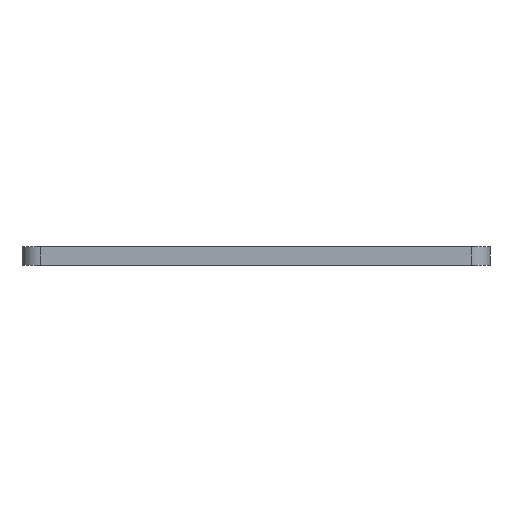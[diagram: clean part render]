
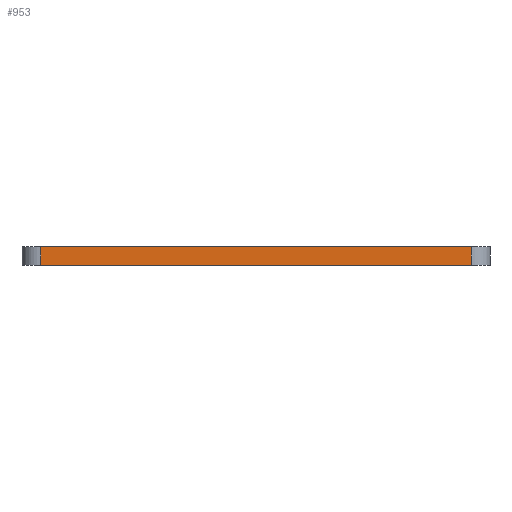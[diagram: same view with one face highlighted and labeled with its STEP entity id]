
A CAD part, front view. The second image highlights one B-rep face of the part: STEP entity #953.
In plain terms, the highlighted planar face has unit normal (0, -1, 0).
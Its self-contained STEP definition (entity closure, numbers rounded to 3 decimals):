
#44 = PLANE('',#45);
#45 = AXIS2_PLACEMENT_3D('',#46,#47,#48);
#46 = CARTESIAN_POINT('',(-25.,-32.5,2.));
#47 = DIRECTION('',(0.,0.,1.));
#48 = DIRECTION('',(1.,0.,0.));
#72 = CYLINDRICAL_SURFACE('',#73,2.);
#73 = AXIS2_PLACEMENT_3D('',#74,#75,#76);
#74 = CARTESIAN_POINT('',(-23.,-30.5,0.));
#75 = DIRECTION('',(0.,0.,1.));
#76 = DIRECTION('',(-1.,-0.,0.));
#100 = PLANE('',#101);
#101 = AXIS2_PLACEMENT_3D('',#102,#103,#104);
#102 = CARTESIAN_POINT('',(-25.,-32.5,0.));
#103 = DIRECTION('',(0.,0.,1.));
#104 = DIRECTION('',(1.,0.,0.));
#143 = VERTEX_POINT('',#144);
#144 = CARTESIAN_POINT('',(-23.,-32.5,2.));
#166 = EDGE_CURVE('',#143,#167,#169,.T.);
#167 = VERTEX_POINT('',#168);
#168 = CARTESIAN_POINT('',(23.,-32.5,2.));
#169 = SURFACE_CURVE('',#170,(#174,#181),.PCURVE_S1.);
#170 = LINE('',#171,#172);
#171 = CARTESIAN_POINT('',(-25.,-32.5,2.));
#172 = VECTOR('',#173,1.);
#173 = DIRECTION('',(1.,0.,0.));
#174 = PCURVE('',#44,#175);
#175 = DEFINITIONAL_REPRESENTATION('',(#176),#180);
#176 = LINE('',#177,#178);
#177 = CARTESIAN_POINT('',(0.,0.));
#178 = VECTOR('',#179,1.);
#179 = DIRECTION('',(1.,0.));
#180 = ( GEOMETRIC_REPRESENTATION_CONTEXT(2) 
PARAMETRIC_REPRESENTATION_CONTEXT() REPRESENTATION_CONTEXT('2D SPACE',''
  ) );
#181 = PCURVE('',#182,#187);
#182 = PLANE('',#183);
#183 = AXIS2_PLACEMENT_3D('',#184,#185,#186);
#184 = CARTESIAN_POINT('',(-25.,-32.5,0.));
#185 = DIRECTION('',(0.,1.,0.));
#186 = DIRECTION('',(0.,0.,1.));
#187 = DEFINITIONAL_REPRESENTATION('',(#188),#192);
#188 = LINE('',#189,#190);
#189 = CARTESIAN_POINT('',(2.,0.));
#190 = VECTOR('',#191,1.);
#191 = DIRECTION('',(0.,1.));
#192 = ( GEOMETRIC_REPRESENTATION_CONTEXT(2) 
PARAMETRIC_REPRESENTATION_CONTEXT() REPRESENTATION_CONTEXT('2D SPACE',''
  ) );
#215 = CYLINDRICAL_SURFACE('',#216,2.);
#216 = AXIS2_PLACEMENT_3D('',#217,#218,#219);
#217 = CARTESIAN_POINT('',(23.,-30.5,0.));
#218 = DIRECTION('',(0.,0.,1.));
#219 = DIRECTION('',(1.,0.,-0.));
#553 = VERTEX_POINT('',#554);
#554 = CARTESIAN_POINT('',(-23.,-32.5,0.));
#576 = EDGE_CURVE('',#553,#143,#577,.T.);
#577 = SURFACE_CURVE('',#578,(#582,#589),.PCURVE_S1.);
#578 = LINE('',#579,#580);
#579 = CARTESIAN_POINT('',(-23.,-32.5,0.));
#580 = VECTOR('',#581,1.);
#581 = DIRECTION('',(0.,0.,1.));
#582 = PCURVE('',#72,#583);
#583 = DEFINITIONAL_REPRESENTATION('',(#584),#588);
#584 = LINE('',#585,#586);
#585 = CARTESIAN_POINT('',(1.571,0.));
#586 = VECTOR('',#587,1.);
#587 = DIRECTION('',(0.,1.));
#588 = ( GEOMETRIC_REPRESENTATION_CONTEXT(2) 
PARAMETRIC_REPRESENTATION_CONTEXT() REPRESENTATION_CONTEXT('2D SPACE',''
  ) );
#589 = PCURVE('',#182,#590);
#590 = DEFINITIONAL_REPRESENTATION('',(#591),#595);
#591 = LINE('',#592,#593);
#592 = CARTESIAN_POINT('',(0.,2.));
#593 = VECTOR('',#594,1.);
#594 = DIRECTION('',(1.,0.));
#595 = ( GEOMETRIC_REPRESENTATION_CONTEXT(2) 
PARAMETRIC_REPRESENTATION_CONTEXT() REPRESENTATION_CONTEXT('2D SPACE',''
  ) );
#658 = EDGE_CURVE('',#553,#659,#661,.T.);
#659 = VERTEX_POINT('',#660);
#660 = CARTESIAN_POINT('',(23.,-32.5,0.));
#661 = SURFACE_CURVE('',#662,(#666,#673),.PCURVE_S1.);
#662 = LINE('',#663,#664);
#663 = CARTESIAN_POINT('',(-25.,-32.5,0.));
#664 = VECTOR('',#665,1.);
#665 = DIRECTION('',(1.,0.,0.));
#666 = PCURVE('',#100,#667);
#667 = DEFINITIONAL_REPRESENTATION('',(#668),#672);
#668 = LINE('',#669,#670);
#669 = CARTESIAN_POINT('',(0.,0.));
#670 = VECTOR('',#671,1.);
#671 = DIRECTION('',(1.,0.));
#672 = ( GEOMETRIC_REPRESENTATION_CONTEXT(2) 
PARAMETRIC_REPRESENTATION_CONTEXT() REPRESENTATION_CONTEXT('2D SPACE',''
  ) );
#673 = PCURVE('',#182,#674);
#674 = DEFINITIONAL_REPRESENTATION('',(#675),#679);
#675 = LINE('',#676,#677);
#676 = CARTESIAN_POINT('',(0.,0.));
#677 = VECTOR('',#678,1.);
#678 = DIRECTION('',(0.,1.));
#679 = ( GEOMETRIC_REPRESENTATION_CONTEXT(2) 
PARAMETRIC_REPRESENTATION_CONTEXT() REPRESENTATION_CONTEXT('2D SPACE',''
  ) );
#953 = ADVANCED_FACE('',(#954),#182,.F.);
#954 = FACE_BOUND('',#955,.F.);
#955 = EDGE_LOOP('',(#956,#957,#958,#959));
#956 = ORIENTED_EDGE('',*,*,#658,.F.);
#957 = ORIENTED_EDGE('',*,*,#576,.T.);
#958 = ORIENTED_EDGE('',*,*,#166,.T.);
#959 = ORIENTED_EDGE('',*,*,#960,.F.);
#960 = EDGE_CURVE('',#659,#167,#961,.T.);
#961 = SURFACE_CURVE('',#962,(#966,#973),.PCURVE_S1.);
#962 = LINE('',#963,#964);
#963 = CARTESIAN_POINT('',(23.,-32.5,0.));
#964 = VECTOR('',#965,1.);
#965 = DIRECTION('',(0.,0.,1.));
#966 = PCURVE('',#182,#967);
#967 = DEFINITIONAL_REPRESENTATION('',(#968),#972);
#968 = LINE('',#969,#970);
#969 = CARTESIAN_POINT('',(0.,48.));
#970 = VECTOR('',#971,1.);
#971 = DIRECTION('',(1.,0.));
#972 = ( GEOMETRIC_REPRESENTATION_CONTEXT(2) 
PARAMETRIC_REPRESENTATION_CONTEXT() REPRESENTATION_CONTEXT('2D SPACE',''
  ) );
#973 = PCURVE('',#215,#974);
#974 = DEFINITIONAL_REPRESENTATION('',(#975),#979);
#975 = LINE('',#976,#977);
#976 = CARTESIAN_POINT('',(-1.571,0.));
#977 = VECTOR('',#978,1.);
#978 = DIRECTION('',(-0.,1.));
#979 = ( GEOMETRIC_REPRESENTATION_CONTEXT(2) 
PARAMETRIC_REPRESENTATION_CONTEXT() REPRESENTATION_CONTEXT('2D SPACE',''
  ) );
